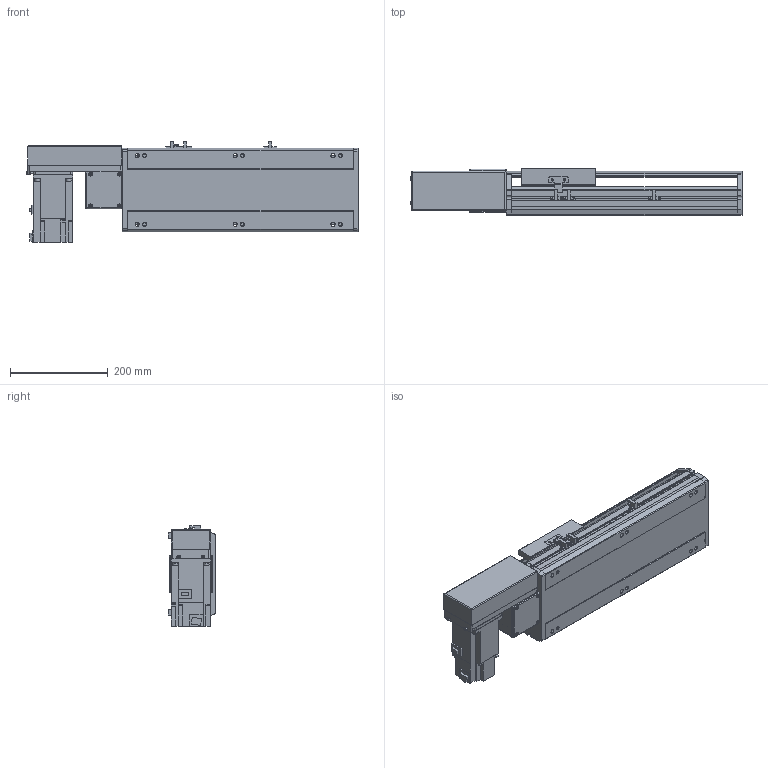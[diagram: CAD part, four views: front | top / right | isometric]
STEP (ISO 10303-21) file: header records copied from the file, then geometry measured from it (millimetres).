
FILE_DESCRIPTION( ( 'STEP AP214' ), '1' );
FILE_NAME( 'x:/temp/worker_4/temp/exporttempdir_2248_251_gPcDU/format_0/PBS170-P40-S200-R-T75-C1-N(0).stp', '2022-06-07T07:28:51', ( 'License CC BY-ND 4.0' ), ( 'CADENAS' ), ' ', 'PARTsolutions', ' ' );
FILE_SCHEMA( ( 'AUTOMOTIVE_DESIGN { 1 0 10303 214 1 1 1 1 }' ) );
Length unit declared in the file: millimetre
Products named in the file (7): PBS170-P40-S200-R-T75-C1-N(0); _PBS170-S200()_body; _PBS170T-R_motors; _T75-p1; _PBS170_sliser; _PBS170_plant; _PBS170_sensor
Assembly tree (8 placements, depth 2):
  PBS170-P40-S200-R-T75-C1-N(0)
    _PBS170-S200()_body
    _PBS170T-R_motors
    _T75-p1
    _PBS170_sliser
    _PBS170_plant
    _PBS170_sensor  x3
Bounding box: 678 x 97 x 205.3 mm (x, y, z)
Volume: 5292426.1 mm3; surface area: 751561.9 mm2
Topology: 8 solids, 8 shells, 1002 faces, 2675 edges, 1744 vertices
Faces by surface type: plane 657, cylinder 299, cone 36, sphere 8, torus 2
Full cylindrical faces by diameter (mm): 3.242 x4, 4 x2, 4.4 x4, 4.5 x6, 4.917 x4, 6 x9, 6.647 x14, 7 x2, 7.5 x4, 8 x8, 8.5 x6, 10 x4, 10.5 x6, 11 x2, 30 x2, 40 x1, 70 x1
Entity records: 36530 total; most frequent: CARTESIAN_POINT 5381, DIRECTION 4950, ORIENTED_EDGE 4728, EDGE_CURVE 2364, AXIS2_PLACEMENT_3D 1687, VERTEX_POINT 1610, LINE 1576, VECTOR 1576
